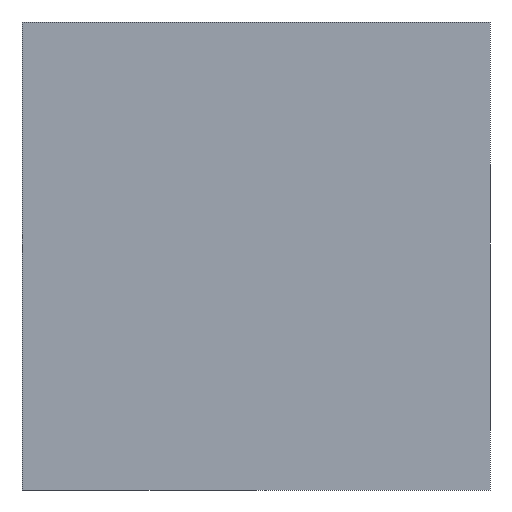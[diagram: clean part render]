
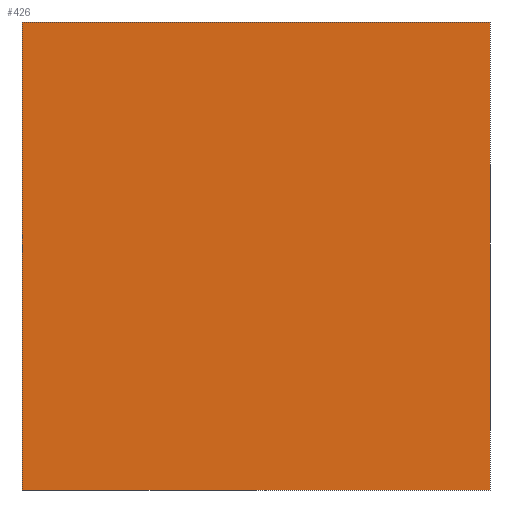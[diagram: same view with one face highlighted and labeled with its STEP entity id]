
A CAD part, left-side view. The second image highlights one B-rep face of the part: STEP entity #426.
In plain terms, the highlighted planar face has unit normal (-1, 0, 0).
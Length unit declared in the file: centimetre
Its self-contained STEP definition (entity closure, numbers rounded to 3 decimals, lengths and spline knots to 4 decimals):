
#5 = CARTESIAN_POINT ( 'NONE',  ( 0., 0., 1000. ) ) ;
#17 = CARTESIAN_POINT ( 'NONE',  ( 0., 1000., 0. ) ) ;
#30 = ORIENTED_EDGE ( 'NONE', *, *, #338, .T. ) ;
#36 = VECTOR ( 'NONE', #415, 100. ) ;
#40 = VERTEX_POINT ( 'NONE', #350 ) ;
#52 = LINE ( 'NONE', #5, #317 ) ;
#79 = VERTEX_POINT ( 'NONE', #134 ) ;
#89 = CARTESIAN_POINT ( 'NONE',  ( 0., 1000., 1000. ) ) ;
#100 = AXIS2_PLACEMENT_3D ( 'NONE', #381, #130, #345 ) ;
#102 = VECTOR ( 'NONE', #346, 100. ) ;
#113 = CARTESIAN_POINT ( 'NONE',  ( 0., 1000., 1000. ) ) ;
#130 = DIRECTION ( 'NONE',  ( 1., 0., 0. ) ) ;
#132 = EDGE_CURVE ( 'NONE', #213, #368, #353, .T. ) ;
#134 = CARTESIAN_POINT ( 'NONE',  ( 0., 0., 1000. ) ) ;
#166 = DIRECTION ( 'NONE',  ( 0., 0., -1. ) ) ;
#171 = DIRECTION ( 'NONE',  ( 0., -1., 0. ) ) ;
#191 = ORIENTED_EDGE ( 'NONE', *, *, #417, .F. ) ;
#206 = PLANE ( 'NONE',  #100 ) ;
#213 = VERTEX_POINT ( 'NONE', #113 ) ;
#233 = EDGE_CURVE ( 'NONE', #79, #40, #52, .T. ) ;
#242 = FACE_OUTER_BOUND ( 'NONE', #400, .T. ) ;
#286 = CARTESIAN_POINT ( 'NONE',  ( 0., 1000., 0. ) ) ;
#304 = LINE ( 'NONE', #17, #36 ) ;
#317 = VECTOR ( 'NONE', #166, 100. ) ;
#338 = EDGE_CURVE ( 'NONE', #368, #40, #304, .T. ) ;
#343 = CARTESIAN_POINT ( 'NONE',  ( 0., 1000., 1000. ) ) ;
#345 = DIRECTION ( 'NONE',  ( 0., 0., -1. ) ) ;
#346 = DIRECTION ( 'NONE',  ( 0., 0., -1. ) ) ;
#347 = LINE ( 'NONE', #89, #452 ) ;
#350 = CARTESIAN_POINT ( 'NONE',  ( 0., 0., 0. ) ) ;
#353 = LINE ( 'NONE', #343, #102 ) ;
#365 = ORIENTED_EDGE ( 'NONE', *, *, #233, .F. ) ;
#368 = VERTEX_POINT ( 'NONE', #286 ) ;
#381 = CARTESIAN_POINT ( 'NONE',  ( 0., 1000., 1000. ) ) ;
#400 = EDGE_LOOP ( 'NONE', ( #30, #365, #191, #442 ) ) ;
#415 = DIRECTION ( 'NONE',  ( 0., -1., 0. ) ) ;
#417 = EDGE_CURVE ( 'NONE', #213, #79, #347, .T. ) ;
#426 = ADVANCED_FACE ( 'NONE', ( #242 ), #206, .F. ) ;
#442 = ORIENTED_EDGE ( 'NONE', *, *, #132, .T. ) ;
#452 = VECTOR ( 'NONE', #171, 100. ) ;
